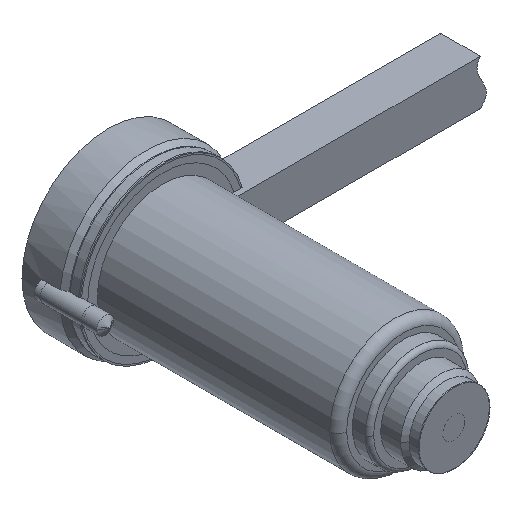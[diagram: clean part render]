
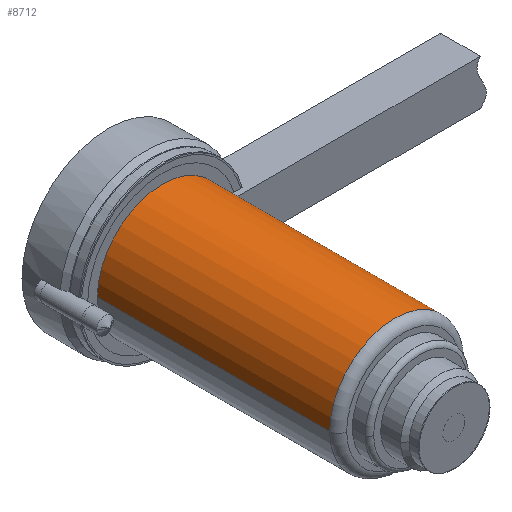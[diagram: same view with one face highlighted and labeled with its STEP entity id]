
A CAD part, isometric view. The second image highlights one B-rep face of the part: STEP entity #8712.
In plain terms, the highlighted cylindrical face has radius 23 mm (diameter 46 mm), a partial arc.
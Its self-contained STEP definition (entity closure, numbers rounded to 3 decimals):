
#8060=CARTESIAN_POINT('',(0.,-19.05,0.));
#8061=DIRECTION('',(0.,-1.,0.));
#8062=DIRECTION('',(0.938,0.,0.348));
#8063=AXIS2_PLACEMENT_3D('',#8060,#8061,#8062);
#8143=CARTESIAN_POINT('',(0.,-21.,0.));
#8144=DIRECTION('',(0.,-1.,0.));
#8145=DIRECTION('',(1.,0.,0.));
#8146=AXIS2_PLACEMENT_3D('',#8143,#8144,#8145);
#8148=CARTESIAN_POINT('',(0.,-100.909,0.));
#8149=DIRECTION('',(0.,-1.,0.));
#8150=DIRECTION('',(1.,0.,0.));
#8151=AXIS2_PLACEMENT_3D('',#8148,#8149,#8150);
#8153=DIRECTION('',(0.,-1.,0.));
#8154=VECTOR('',#8153,1.95);
#8155=CARTESIAN_POINT('',(21.564,-19.05,8.));
#8156=LINE('',#8155,#8154);
#8189=DIRECTION('',(0.,1.,0.));
#8190=VECTOR('',#8189,81.859);
#8191=CARTESIAN_POINT('',(-23.,-100.909,0.));
#8192=LINE('',#8191,#8190);
#8198=DIRECTION('',(0.,1.,0.));
#8199=VECTOR('',#8198,79.909);
#8200=CARTESIAN_POINT('',(23.,-100.909,0.));
#8201=LINE('',#8200,#8199);
#8399=CARTESIAN_POINT('',(23.,-100.909,0.));
#8401=VERTEX_POINT('',#8399);
#8403=CARTESIAN_POINT('',(-23.,-100.909,0.));
#8405=VERTEX_POINT('',#8403);
#8406=CARTESIAN_POINT('',(-23.,-19.05,0.));
#8407=VERTEX_POINT('',#8406);
#8420=CARTESIAN_POINT('',(23.,-21.,0.));
#8421=CARTESIAN_POINT('',(21.564,-21.,8.));
#8422=VERTEX_POINT('',#8420);
#8423=VERTEX_POINT('',#8421);
#8424=CARTESIAN_POINT('',(21.564,-19.05,8.));
#8425=VERTEX_POINT('',#8424);
#8695=CARTESIAN_POINT('',(0.,6.095,0.));
#8696=DIRECTION('',(0.,-1.,0.));
#8697=DIRECTION('',(-1.,0.,0.));
#8698=AXIS2_PLACEMENT_3D('',#8695,#8696,#8697);
#8699=CYLINDRICAL_SURFACE('',#8698,23.);
#8701=ORIENTED_EDGE('',*,*,#8700,.F.);
#8703=ORIENTED_EDGE('',*,*,#8702,.F.);
#8705=ORIENTED_EDGE('',*,*,#8704,.T.);
#8707=ORIENTED_EDGE('',*,*,#8706,.T.);
#8708=ORIENTED_EDGE('',*,*,#8570,.F.);
#8709=ORIENTED_EDGE('',*,*,#8679,.T.);
#8710=EDGE_LOOP('',(#8701,#8703,#8705,#8707,#8708,#8709));
#8711=FACE_OUTER_BOUND('',#8710,.F.);
#8712=ADVANCED_FACE('',(#8711),#8699,.T.);
#8064=CIRCLE('',#8063,23.);
#8147=CIRCLE('',#8146,23.);
#8152=CIRCLE('',#8151,23.);
#8570=EDGE_CURVE('',#8425,#8407,#8064,.T.);
#8679=EDGE_CURVE('',#8425,#8423,#8156,.T.);
#8700=EDGE_CURVE('',#8422,#8423,#8147,.T.);
#8702=EDGE_CURVE('',#8401,#8422,#8201,.T.);
#8704=EDGE_CURVE('',#8401,#8405,#8152,.T.);
#8706=EDGE_CURVE('',#8405,#8407,#8192,.T.);
